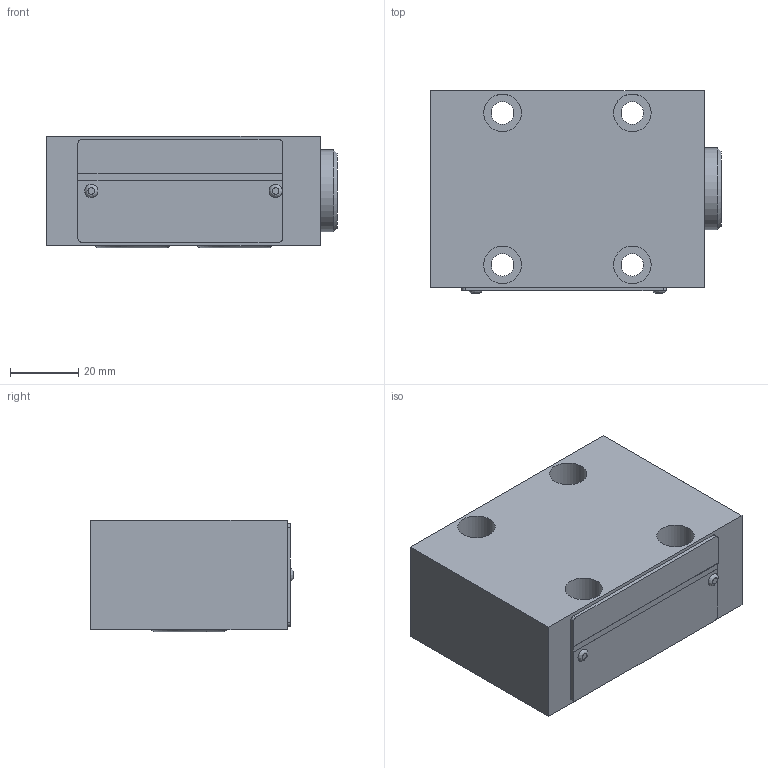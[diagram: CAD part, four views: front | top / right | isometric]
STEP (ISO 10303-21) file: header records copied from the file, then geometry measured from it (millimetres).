
FILE_DESCRIPTION(/* description */ (''),/* implementation_level */ '2;1');
FILE_NAME(/* name */ 'RVP12单向阀.prt.stp',/* time_stamp */ '2022-03-30T19:11:40+08:00',/* author */ (''),/* organization */ (''),/* preprocessor_version */ 'ST-DEVELOPER v16.7',/* originating_system */ 'SIEMENS PLM Software NX 12.0',/* authorisation */ '');
FILE_SCHEMA (('AUTOMOTIVE_DESIGN { 1 0 10303 214 3 1 1 1 }'));
Length unit declared in the file: millimetre
Products named in the file (1): RVP12单向阀
Bounding box: 85 x 59.3 x 32.62 mm (x, y, z)
Volume: 143486.9 mm3; surface area: 30974.4 mm2
Topology: 7 solids, 8 shells, 95 faces, 213 edges, 139 vertices
Faces by surface type: plane 47, cylinder 31, cone 7, torus 4, bspline 4, sphere 2
Full cylindrical faces by diameter (mm): 1.8 x2, 1.9 x2, 6.6 x4, 9 x1, 11 x4, 13 x2, 14.46 x1, 18.1 x2, 18.5 x1, 20 x1, 21.8 x2, 24 x1, 28 x1
Entity records: 3403 total; most frequent: CARTESIAN_POINT 1416, DIRECTION 395, ORIENTED_EDGE 316, AXIS2_PLACEMENT_3D 167, EDGE_CURVE 158, EDGE_LOOP 153, VERTEX_POINT 126, FACE_BOUND 117
